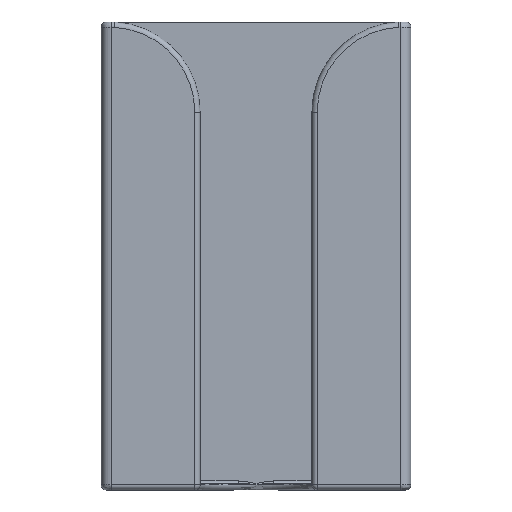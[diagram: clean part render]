
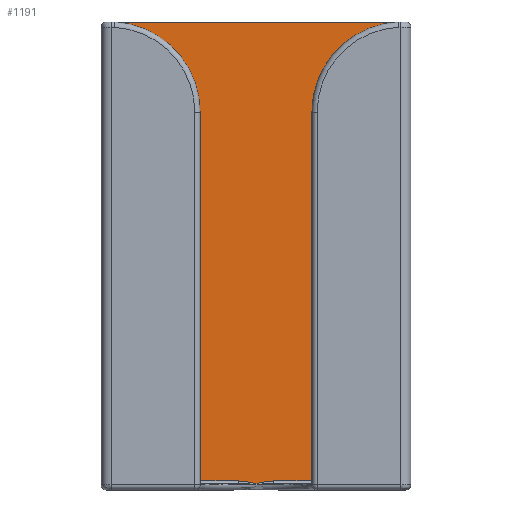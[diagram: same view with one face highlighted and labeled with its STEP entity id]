
A CAD part, front view. The second image highlights one B-rep face of the part: STEP entity #1191.
In plain terms, the highlighted planar face has unit normal (0, -1, 0).
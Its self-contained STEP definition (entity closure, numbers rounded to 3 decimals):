
#20=PLANE('',#1294);
#56=B_SPLINE_CURVE_WITH_KNOTS('',3,(#1869,#1870,#1871,#1872,#1873,#1874),
 .UNSPECIFIED.,.F.,.F.,(4,2,4),(-1.007,-1.006,-0.666),
 .UNSPECIFIED.);
#58=B_SPLINE_CURVE_WITH_KNOTS('',3,(#1969,#1970,#1971,#1972,#1973,#1974),
 .UNSPECIFIED.,.F.,.F.,(4,2,4),(-0.34,0.,0.001),
 .UNSPECIFIED.);
#59=B_SPLINE_CURVE_WITH_KNOTS('',3,(#2002,#2003,#2004,#2005),
 .UNSPECIFIED.,.F.,.F.,(4,4),(0.839,0.847),
 .UNSPECIFIED.);
#60=B_SPLINE_CURVE_WITH_KNOTS('',3,(#2009,#2010,#2011,#2012),
 .UNSPECIFIED.,.F.,.F.,(4,4),(0.981,0.989),
 .UNSPECIFIED.);
#70=ELLIPSE('',#1295,1.001,1.);
#71=ELLIPSE('',#1296,1.001,1.);
#75=LINE('',#1810,#161);
#78=LINE('',#1818,#164);
#85=LINE('',#1906,#171);
#88=LINE('',#1914,#174);
#95=LINE('',#1992,#181);
#97=LINE('',#1996,#183);
#98=LINE('',#1998,#184);
#99=LINE('',#2007,#185);
#100=LINE('',#2015,#186);
#161=VECTOR('',#1425,10.);
#164=VECTOR('',#1434,10.);
#171=VECTOR('',#1475,10.);
#174=VECTOR('',#1484,10.);
#181=VECTOR('',#1509,10.);
#183=VECTOR('',#1513,10.);
#184=VECTOR('',#1514,10.);
#185=VECTOR('',#1517,10.);
#186=VECTOR('',#1520,10.);
#299=FACE_OUTER_BOUND('',#378,.T.);
#378=EDGE_LOOP('',(#876,#877,#878,#879,#880,#881,#882,#883,#884,#885,#886,
#887,#888,#889,#890,#891,#892));
#448=CIRCLE('',#1271,0.5);
#460=CIRCLE('',#1291,0.5);
#517=VERTEX_POINT('',#1799);
#520=VERTEX_POINT('',#1806);
#523=VERTEX_POINT('',#1816);
#529=VERTEX_POINT('',#1867);
#530=VERTEX_POINT('',#1884);
#534=VERTEX_POINT('',#1895);
#537=VERTEX_POINT('',#1902);
#540=VERTEX_POINT('',#1912);
#546=VERTEX_POINT('',#1985);
#547=VERTEX_POINT('',#1991);
#548=VERTEX_POINT('',#1995);
#549=VERTEX_POINT('',#1997);
#550=VERTEX_POINT('',#1999);
#551=VERTEX_POINT('',#2001);
#552=VERTEX_POINT('',#2006);
#553=VERTEX_POINT('',#2008);
#554=VERTEX_POINT('',#2013);
#627=EDGE_CURVE('',#517,#520,#75,.T.);
#631=EDGE_CURVE('',#523,#517,#78,.T.);
#641=EDGE_CURVE('',#529,#523,#56,.T.);
#643=EDGE_CURVE('',#520,#530,#448,.T.);
#652=EDGE_CURVE('',#534,#537,#85,.T.);
#656=EDGE_CURVE('',#540,#534,#88,.T.);
#665=EDGE_CURVE('',#537,#529,#58,.T.);
#668=EDGE_CURVE('',#546,#540,#460,.T.);
#670=EDGE_CURVE('',#547,#530,#95,.T.);
#672=EDGE_CURVE('',#546,#548,#97,.T.);
#673=EDGE_CURVE('',#548,#549,#98,.T.);
#674=EDGE_CURVE('',#549,#550,#70,.T.);
#675=EDGE_CURVE('',#550,#551,#59,.T.);
#676=EDGE_CURVE('',#551,#552,#99,.T.);
#677=EDGE_CURVE('',#552,#553,#60,.T.);
#678=EDGE_CURVE('',#554,#553,#71,.F.);
#679=EDGE_CURVE('',#554,#547,#100,.T.);
#876=ORIENTED_EDGE('',*,*,#643,.F.);
#877=ORIENTED_EDGE('',*,*,#627,.F.);
#878=ORIENTED_EDGE('',*,*,#631,.F.);
#879=ORIENTED_EDGE('',*,*,#641,.F.);
#880=ORIENTED_EDGE('',*,*,#665,.F.);
#881=ORIENTED_EDGE('',*,*,#652,.F.);
#882=ORIENTED_EDGE('',*,*,#656,.F.);
#883=ORIENTED_EDGE('',*,*,#668,.F.);
#884=ORIENTED_EDGE('',*,*,#672,.T.);
#885=ORIENTED_EDGE('',*,*,#673,.T.);
#886=ORIENTED_EDGE('',*,*,#674,.T.);
#887=ORIENTED_EDGE('',*,*,#675,.T.);
#888=ORIENTED_EDGE('',*,*,#676,.T.);
#889=ORIENTED_EDGE('',*,*,#677,.T.);
#890=ORIENTED_EDGE('',*,*,#678,.F.);
#891=ORIENTED_EDGE('',*,*,#679,.T.);
#892=ORIENTED_EDGE('',*,*,#670,.T.);
#1191=ADVANCED_FACE('',(#299),#20,.T.);
#1271=AXIS2_PLACEMENT_3D('',#1886,#1452,#1453);
#1291=AXIS2_PLACEMENT_3D('',#1987,#1502,#1503);
#1294=AXIS2_PLACEMENT_3D('',#1994,#1511,#1512);
#1295=AXIS2_PLACEMENT_3D('',#2000,#1515,#1516);
#1296=AXIS2_PLACEMENT_3D('',#2014,#1518,#1519);
#1425=DIRECTION('',(0.,0.,1.));
#1434=DIRECTION('',(-1.,0.,0.));
#1452=DIRECTION('center_axis',(0.,-1.,0.));
#1453=DIRECTION('ref_axis',(-1.,0.,0.));
#1475=DIRECTION('',(-1.,0.,0.));
#1484=DIRECTION('',(0.,0.,-1.));
#1502=DIRECTION('center_axis',(0.,-1.,0.));
#1503=DIRECTION('ref_axis',(1.,0.,0.));
#1509=DIRECTION('',(-0.707,0.,-0.707));
#1511=DIRECTION('center_axis',(0.,-1.,0.));
#1512=DIRECTION('ref_axis',(1.,0.,0.));
#1513=DIRECTION('',(-0.707,0.,0.707));
#1514=DIRECTION('',(0.,0.,1.));
#1515=DIRECTION('center_axis',(0.,1.,0.));
#1516=DIRECTION('ref_axis',(-1.,0.,0.));
#1517=DIRECTION('',(-1.,0.,0.));
#1518=DIRECTION('center_axis',(0.,1.,0.));
#1519=DIRECTION('ref_axis',(1.,0.,0.));
#1520=DIRECTION('',(0.,0.,-1.));
#1799=CARTESIAN_POINT('',(-93.82,-2.609,-54.749));
#1806=CARTESIAN_POINT('',(-93.82,-2.609,28.101));
#1810=CARTESIAN_POINT('',(-93.82,-2.609,9.851));
#1816=CARTESIAN_POINT('',(-70.272,-2.609,-54.749));
#1818=CARTESIAN_POINT('',(-80.608,-2.609,-54.749));
#1867=CARTESIAN_POINT('',(-66.895,-2.609,-55.249));
#1869=CARTESIAN_POINT('Ctrl Pts',(-66.895,-2.609,-55.249));
#1870=CARTESIAN_POINT('Ctrl Pts',(-66.9,-2.609,-55.248));
#1871=CARTESIAN_POINT('Ctrl Pts',(-66.904,-2.609,-55.247));
#1872=CARTESIAN_POINT('Ctrl Pts',(-68.018,-2.609,-55.015));
#1873=CARTESIAN_POINT('Ctrl Pts',(-69.139,-2.609,-54.749));
#1874=CARTESIAN_POINT('Ctrl Pts',(-70.272,-2.609,-54.749));
#1884=CARTESIAN_POINT('',(-93.967,-2.609,28.455));
#1886=CARTESIAN_POINT('Origin',(-94.32,-2.609,28.101));
#1895=CARTESIAN_POINT('',(-39.97,-2.609,-54.749));
#1902=CARTESIAN_POINT('',(-63.518,-2.609,-54.749));
#1906=CARTESIAN_POINT('',(-80.608,-2.609,-54.749));
#1912=CARTESIAN_POINT('',(-39.97,-2.609,28.101));
#1914=CARTESIAN_POINT('',(-39.97,-2.609,-33.549));
#1969=CARTESIAN_POINT('Ctrl Pts',(-63.518,-2.609,-54.749));
#1970=CARTESIAN_POINT('Ctrl Pts',(-64.652,-2.609,-54.749));
#1971=CARTESIAN_POINT('Ctrl Pts',(-65.772,-2.609,-55.014));
#1972=CARTESIAN_POINT('Ctrl Pts',(-66.886,-2.609,-55.247));
#1973=CARTESIAN_POINT('Ctrl Pts',(-66.891,-2.609,-55.248));
#1974=CARTESIAN_POINT('Ctrl Pts',(-66.895,-2.609,-55.249));
#1985=CARTESIAN_POINT('',(-39.824,-2.609,28.455));
#1987=CARTESIAN_POINT('Origin',(-39.47,-2.609,28.101));
#1991=CARTESIAN_POINT('',(-93.87,-2.609,28.551));
#1992=CARTESIAN_POINT('',(-97.339,-2.609,25.082));
#1994=CARTESIAN_POINT('Origin',(-66.895,-2.609,-11.849));
#1995=CARTESIAN_POINT('',(-39.92,-2.609,28.551));
#1996=CARTESIAN_POINT('',(-36.451,-2.609,25.082));
#1997=CARTESIAN_POINT('',(-39.92,-2.609,30.551));
#1998=CARTESIAN_POINT('',(-39.92,-2.609,9.851));
#1999=CARTESIAN_POINT('',(-38.977,-2.609,31.549));
#2000=CARTESIAN_POINT('Origin',(-38.919,-2.609,30.551));
#2001=CARTESIAN_POINT('',(-39.056,-2.609,31.551));
#2002=CARTESIAN_POINT('Ctrl Pts',(-38.977,-2.609,31.549));
#2003=CARTESIAN_POINT('Ctrl Pts',(-39.004,-2.609,31.551));
#2004=CARTESIAN_POINT('Ctrl Pts',(-39.03,-2.609,31.551));
#2005=CARTESIAN_POINT('Ctrl Pts',(-39.056,-2.609,31.551));
#2006=CARTESIAN_POINT('',(-94.734,-2.609,31.551));
#2007=CARTESIAN_POINT('',(-53.183,-2.609,31.551));
#2008=CARTESIAN_POINT('',(-94.813,-2.609,31.549));
#2009=CARTESIAN_POINT('Ctrl Pts',(-94.734,-2.609,31.551));
#2010=CARTESIAN_POINT('Ctrl Pts',(-94.76,-2.609,31.551));
#2011=CARTESIAN_POINT('Ctrl Pts',(-94.786,-2.609,31.551));
#2012=CARTESIAN_POINT('Ctrl Pts',(-94.813,-2.609,31.549));
#2013=CARTESIAN_POINT('',(-93.87,-2.609,30.551));
#2014=CARTESIAN_POINT('Origin',(-94.871,-2.609,30.551));
#2015=CARTESIAN_POINT('',(-93.87,-2.609,9.851));
